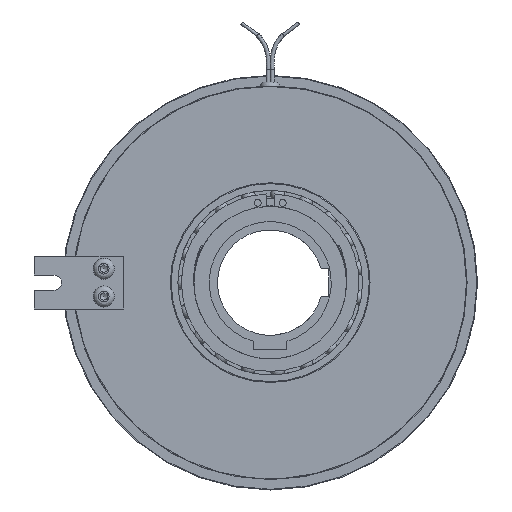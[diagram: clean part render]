
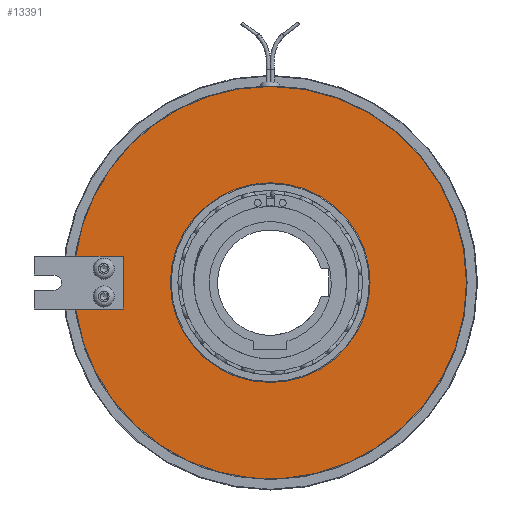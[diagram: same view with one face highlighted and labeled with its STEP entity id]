
A CAD part, left-side view. The second image highlights one B-rep face of the part: STEP entity #13391.
In plain terms, the highlighted planar face has unit normal (-1, 0, 0).
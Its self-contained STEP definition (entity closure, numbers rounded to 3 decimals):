
#589=FACE_BOUND('',#2221,.T.);
#848=PLANE('',#14719);
#1448=FACE_OUTER_BOUND('',#2220,.T.);
#2220=EDGE_LOOP('',(#10474,#10475,#10476,#10477,#10478,#10479));
#2221=EDGE_LOOP('',(#10480,#10481));
#2971=LINE('',#22422,#3504);
#2972=LINE('',#22425,#3505);
#2973=LINE('',#22426,#3506);
#3504=VECTOR('',#17934,10.);
#3505=VECTOR('',#17937,10.);
#3506=VECTOR('',#17938,10.);
#4042=CIRCLE('',#14360,70.75);
#4045=CIRCLE('',#14363,70.75);
#4290=CIRCLE('',#14720,70.75);
#4291=CIRCLE('',#14721,36.);
#4292=CIRCLE('',#14722,36.);
#5288=VERTEX_POINT('',#21595);
#5289=VERTEX_POINT('',#21597);
#5291=VERTEX_POINT('',#21601);
#5292=VERTEX_POINT('',#21603);
#5564=VERTEX_POINT('',#22421);
#5565=VERTEX_POINT('',#22424);
#5566=VERTEX_POINT('',#22427);
#5567=VERTEX_POINT('',#22428);
#6956=EDGE_CURVE('',#5289,#5288,#4042,.T.);
#6959=EDGE_CURVE('',#5292,#5291,#4045,.T.);
#7335=EDGE_CURVE('',#5564,#5289,#2971,.T.);
#7336=EDGE_CURVE('',#5288,#5292,#4290,.T.);
#7337=EDGE_CURVE('',#5291,#5565,#2972,.T.);
#7338=EDGE_CURVE('',#5565,#5564,#2973,.T.);
#7339=EDGE_CURVE('',#5566,#5567,#4291,.T.);
#7340=EDGE_CURVE('',#5567,#5566,#4292,.T.);
#10474=ORIENTED_EDGE('',*,*,#7335,.T.);
#10475=ORIENTED_EDGE('',*,*,#6956,.T.);
#10476=ORIENTED_EDGE('',*,*,#7336,.T.);
#10477=ORIENTED_EDGE('',*,*,#6959,.T.);
#10478=ORIENTED_EDGE('',*,*,#7337,.T.);
#10479=ORIENTED_EDGE('',*,*,#7338,.T.);
#10480=ORIENTED_EDGE('',*,*,#7339,.F.);
#10481=ORIENTED_EDGE('',*,*,#7340,.F.);
#13391=ADVANCED_FACE('',(#1448,#589),#848,.T.);
#14360=AXIS2_PLACEMENT_3D('',#21598,#17091,#17092);
#14363=AXIS2_PLACEMENT_3D('',#21604,#17097,#17098);
#14719=AXIS2_PLACEMENT_3D('',#22420,#17932,#17933);
#14720=AXIS2_PLACEMENT_3D('',#22423,#17935,#17936);
#14721=AXIS2_PLACEMENT_3D('',#22429,#17939,#17940);
#14722=AXIS2_PLACEMENT_3D('',#22430,#17941,#17942);
#17091=DIRECTION('center_axis',(-1.,0.,0.));
#17092=DIRECTION('ref_axis',(0.,1.,0.));
#17097=DIRECTION('center_axis',(-1.,0.,0.));
#17098=DIRECTION('ref_axis',(0.,1.,0.));
#17932=DIRECTION('center_axis',(-1.,0.,0.));
#17933=DIRECTION('ref_axis',(0.,0.,
1.));
#17934=DIRECTION('',(0.,1.,0.));
#17935=DIRECTION('center_axis',(-1.,0.,0.));
#17936=DIRECTION('ref_axis',(0.,1.,0.));
#17937=DIRECTION('',(0.,-1.,0.));
#17938=DIRECTION('',(0.,0.,-1.));
#17939=DIRECTION('center_axis',(-1.,0.,0.));
#17940=DIRECTION('ref_axis',(0.,1.,0.));
#17941=DIRECTION('center_axis',(-1.,0.,0.));
#17942=DIRECTION('ref_axis',(0.,1.,0.));
#21595=CARTESIAN_POINT('',(-42.3,-70.75,0.));
#21597=CARTESIAN_POINT('',(-42.3,70.109,-9.5));
#21598=CARTESIAN_POINT('Origin',(-42.3,0.,0.));
#21601=CARTESIAN_POINT('',(-42.3,70.109,9.5));
#21603=CARTESIAN_POINT('',(-42.3,0.,70.75));
#21604=CARTESIAN_POINT('Origin',(-42.3,0.,0.));
#22420=CARTESIAN_POINT('Origin',(-42.3,53.375,0.));
#22421=CARTESIAN_POINT('',(-42.3,53.,-9.5));
#22422=CARTESIAN_POINT('',(-42.3,53.188,-9.5));
#22423=CARTESIAN_POINT('Origin',(-42.3,0.,0.));
#22424=CARTESIAN_POINT('',(-42.3,53.,9.5));
#22425=CARTESIAN_POINT('',(-42.3,69.188,9.5));
#22426=CARTESIAN_POINT('',(-42.3,53.,4.75));
#22427=CARTESIAN_POINT('',(-42.3,36.,0.));
#22428=CARTESIAN_POINT('',(-42.3,-36.,0.));
#22429=CARTESIAN_POINT('Origin',(-42.3,0.,0.));
#22430=CARTESIAN_POINT('Origin',(-42.3,0.,0.));
